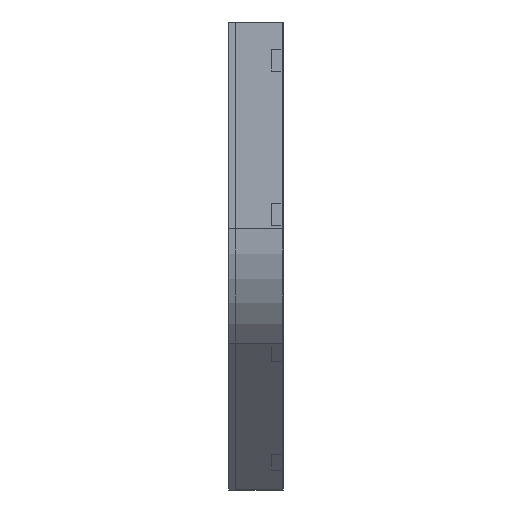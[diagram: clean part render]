
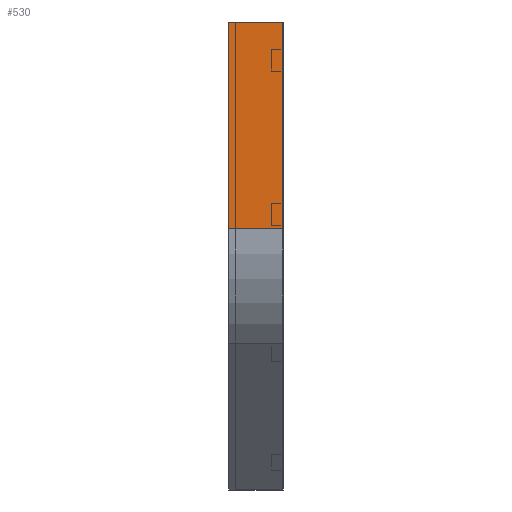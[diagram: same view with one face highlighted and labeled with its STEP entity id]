
A CAD part, left-side view. The second image highlights one B-rep face of the part: STEP entity #530.
In plain terms, the highlighted planar face has unit normal (-1, 0, 0).
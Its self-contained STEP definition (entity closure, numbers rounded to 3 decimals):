
#97 = EDGE_CURVE ( 'NONE', #605, #1782, #1845, .T. ) ;
#113 = CARTESIAN_POINT ( 'NONE',  ( 0., 0., -381.371 ) ) ;
#143 = VECTOR ( 'NONE', #1419, 1000. ) ;
#279 = ORIENTED_EDGE ( 'NONE', *, *, #904, .F. ) ;
#285 = CARTESIAN_POINT ( 'NONE',  ( 0., 100., -381.371 ) ) ;
#371 = ORIENTED_EDGE ( 'NONE', *, *, #1191, .T. ) ;
#428 = DIRECTION ( 'NONE',  ( 0., -1., 0. ) ) ;
#431 = LINE ( 'NONE', #1017, #802 ) ;
#497 = PLANE ( 'NONE',  #691 ) ;
#530 = ADVANCED_FACE ( 'NONE', ( #796 ), #497, .F. ) ;
#605 = VERTEX_POINT ( 'NONE', #1481 ) ;
#691 = AXIS2_PLACEMENT_3D ( 'NONE', #778, #1627, #1799 ) ;
#778 = CARTESIAN_POINT ( 'NONE',  ( 0., 0., 0. ) ) ;
#796 = FACE_OUTER_BOUND ( 'NONE', #1239, .T. ) ;
#802 = VECTOR ( 'NONE', #1433, 1000. ) ;
#818 = DIRECTION ( 'NONE',  ( 0., 0., -1. ) ) ;
#826 = CARTESIAN_POINT ( 'NONE',  ( 0., 0., -381.371 ) ) ;
#904 = EDGE_CURVE ( 'NONE', #1782, #952, #1254, .T. ) ;
#952 = VERTEX_POINT ( 'NONE', #826 ) ;
#966 = CARTESIAN_POINT ( 'NONE',  ( 0., 0., 0. ) ) ;
#1017 = CARTESIAN_POINT ( 'NONE',  ( 0., 100., 0. ) ) ;
#1052 = VECTOR ( 'NONE', #818, 1000. ) ;
#1064 = EDGE_CURVE ( 'NONE', #605, #1510, #431, .T. ) ;
#1074 = VECTOR ( 'NONE', #428, 1000. ) ;
#1191 = EDGE_CURVE ( 'NONE', #1510, #952, #1714, .T. ) ;
#1239 = EDGE_LOOP ( 'NONE', ( #279, #1272, #1818, #371 ) ) ;
#1254 = LINE ( 'NONE', #966, #1052 ) ;
#1272 = ORIENTED_EDGE ( 'NONE', *, *, #97, .F. ) ;
#1413 = CARTESIAN_POINT ( 'NONE',  ( 0., 0., 0. ) ) ;
#1419 = DIRECTION ( 'NONE',  ( 0., -1., 0. ) ) ;
#1433 = DIRECTION ( 'NONE',  ( 0., 0., -1. ) ) ;
#1481 = CARTESIAN_POINT ( 'NONE',  ( 0., 100., 0. ) ) ;
#1510 = VERTEX_POINT ( 'NONE', #285 ) ;
#1557 = CARTESIAN_POINT ( 'NONE',  ( 0., 0., 0. ) ) ;
#1627 = DIRECTION ( 'NONE',  ( 1., 0., 0. ) ) ;
#1714 = LINE ( 'NONE', #113, #1074 ) ;
#1782 = VERTEX_POINT ( 'NONE', #1413 ) ;
#1799 = DIRECTION ( 'NONE',  ( 0., 0., -1. ) ) ;
#1818 = ORIENTED_EDGE ( 'NONE', *, *, #1064, .T. ) ;
#1845 = LINE ( 'NONE', #1557, #143 ) ;
